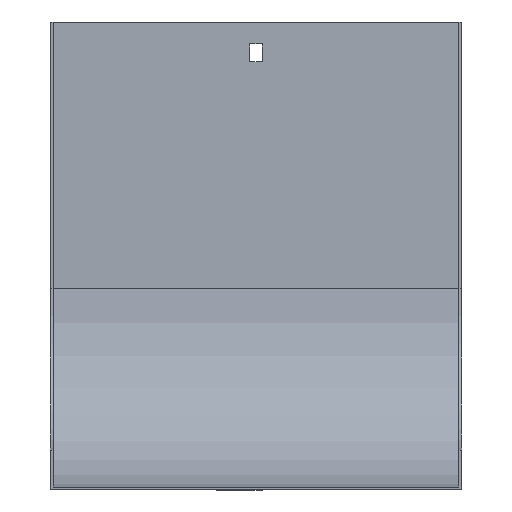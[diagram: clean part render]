
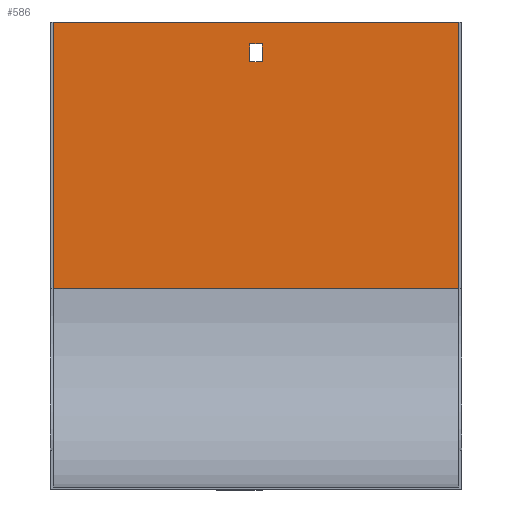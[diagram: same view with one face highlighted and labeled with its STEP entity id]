
A CAD part, front view. The second image highlights one B-rep face of the part: STEP entity #586.
In plain terms, the highlighted planar face has unit normal (0, -1, 0).
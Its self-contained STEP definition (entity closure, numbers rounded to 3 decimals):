
#12 = DIRECTION ( 'NONE',  ( -1., 0., 0. ) ) ;
#27 = ORIENTED_EDGE ( 'NONE', *, *, #231, .F. ) ;
#36 = FACE_OUTER_BOUND ( 'NONE', #505, .T. ) ;
#59 = ORIENTED_EDGE ( 'NONE', *, *, #351, .F. ) ;
#73 = LINE ( 'NONE', #329, #463 ) ;
#74 = DIRECTION ( 'NONE',  ( 0., 0., 1. ) ) ;
#81 = DIRECTION ( 'NONE',  ( -1., 0., 0. ) ) ;
#110 = VERTEX_POINT ( 'NONE', #616 ) ;
#117 = ORIENTED_EDGE ( 'NONE', *, *, #427, .F. ) ;
#128 = ORIENTED_EDGE ( 'NONE', *, *, #513, .T. ) ;
#141 = EDGE_CURVE ( 'NONE', #110, #310, #737, .T. ) ;
#144 = CARTESIAN_POINT ( 'NONE',  ( 103.5, -1.5, -134. ) ) ;
#203 = LINE ( 'NONE', #532, #639 ) ;
#211 = DIRECTION ( 'NONE',  ( 0., 0., 1. ) ) ;
#212 = CARTESIAN_POINT ( 'NONE',  ( 103.5, -1.5, -11. ) ) ;
#231 = EDGE_CURVE ( 'NONE', #721, #793, #842, .T. ) ;
#248 = CARTESIAN_POINT ( 'NONE',  ( 103.5, -1.5, 0. ) ) ;
#286 = CARTESIAN_POINT ( 'NONE',  ( -3.25, -1.5, -20. ) ) ;
#308 = ORIENTED_EDGE ( 'NONE', *, *, #453, .F. ) ;
#310 = VERTEX_POINT ( 'NONE', #323 ) ;
#323 = CARTESIAN_POINT ( 'NONE',  ( -102., -1.5, -134. ) ) ;
#327 = VECTOR ( 'NONE', #12, 1000. ) ;
#329 = CARTESIAN_POINT ( 'NONE',  ( -102., -1.5, -134. ) ) ;
#341 = EDGE_CURVE ( 'NONE', #793, #461, #798, .T. ) ;
#351 = EDGE_CURVE ( 'NONE', #797, #721, #395, .T. ) ;
#373 = VECTOR ( 'NONE', #589, 1000. ) ;
#385 = VECTOR ( 'NONE', #852, 1000. ) ;
#388 = FACE_BOUND ( 'NONE', #531, .T. ) ;
#395 = LINE ( 'NONE', #853, #595 ) ;
#427 = EDGE_CURVE ( 'NONE', #461, #797, #750, .T. ) ;
#439 = CARTESIAN_POINT ( 'NONE',  ( 3.25, -1.5, -20. ) ) ;
#453 = EDGE_CURVE ( 'NONE', #310, #638, #73, .T. ) ;
#461 = VERTEX_POINT ( 'NONE', #599 ) ;
#463 = VECTOR ( 'NONE', #211, 1000. ) ;
#505 = EDGE_LOOP ( 'NONE', ( #308, #857, #128, #672 ) ) ;
#513 = EDGE_CURVE ( 'NONE', #110, #576, #203, .T. ) ;
#517 = DIRECTION ( 'NONE',  ( 0., 0., -1. ) ) ;
#531 = EDGE_LOOP ( 'NONE', ( #59, #117, #579, #27 ) ) ;
#532 = CARTESIAN_POINT ( 'NONE',  ( 102., -1.5, -134. ) ) ;
#575 = PLANE ( 'NONE',  #711 ) ;
#576 = VERTEX_POINT ( 'NONE', #757 ) ;
#579 = ORIENTED_EDGE ( 'NONE', *, *, #341, .F. ) ;
#586 = ADVANCED_FACE ( 'NONE', ( #388, #36 ), #575, .T. ) ;
#589 = DIRECTION ( 'NONE',  ( 1., 0., 0. ) ) ;
#591 = DIRECTION ( 'NONE',  ( 0., -1., 0. ) ) ;
#595 = VECTOR ( 'NONE', #729, 1000. ) ;
#599 = CARTESIAN_POINT ( 'NONE',  ( 3.25, -1.5, -11. ) ) ;
#612 = CARTESIAN_POINT ( 'NONE',  ( 3.25, -1.5, 0. ) ) ;
#616 = CARTESIAN_POINT ( 'NONE',  ( 102., -1.5, -134. ) ) ;
#638 = VERTEX_POINT ( 'NONE', #840 ) ;
#639 = VECTOR ( 'NONE', #682, 1000. ) ;
#672 = ORIENTED_EDGE ( 'NONE', *, *, #847, .T. ) ;
#682 = DIRECTION ( 'NONE',  ( 0., 0., 1. ) ) ;
#694 = CARTESIAN_POINT ( 'NONE',  ( 103.5, -1.5, -20. ) ) ;
#711 = AXIS2_PLACEMENT_3D ( 'NONE', #248, #591, #517 ) ;
#721 = VERTEX_POINT ( 'NONE', #286 ) ;
#722 = LINE ( 'NONE', #728, #385 ) ;
#728 = CARTESIAN_POINT ( 'NONE',  ( 103.5, -1.5, 0. ) ) ;
#729 = DIRECTION ( 'NONE',  ( 0., 0., -1. ) ) ;
#737 = LINE ( 'NONE', #144, #327 ) ;
#750 = LINE ( 'NONE', #212, #796 ) ;
#751 = VECTOR ( 'NONE', #74, 1000. ) ;
#757 = CARTESIAN_POINT ( 'NONE',  ( 102., -1.5, 0. ) ) ;
#767 = CARTESIAN_POINT ( 'NONE',  ( -3.25, -1.5, -11. ) ) ;
#793 = VERTEX_POINT ( 'NONE', #439 ) ;
#796 = VECTOR ( 'NONE', #81, 1000. ) ;
#797 = VERTEX_POINT ( 'NONE', #767 ) ;
#798 = LINE ( 'NONE', #612, #751 ) ;
#840 = CARTESIAN_POINT ( 'NONE',  ( -102., -1.5, 0. ) ) ;
#842 = LINE ( 'NONE', #694, #373 ) ;
#847 = EDGE_CURVE ( 'NONE', #576, #638, #722, .T. ) ;
#852 = DIRECTION ( 'NONE',  ( -1., 0., 0. ) ) ;
#853 = CARTESIAN_POINT ( 'NONE',  ( -3.25, -1.5, 0. ) ) ;
#857 = ORIENTED_EDGE ( 'NONE', *, *, #141, .F. ) ;
